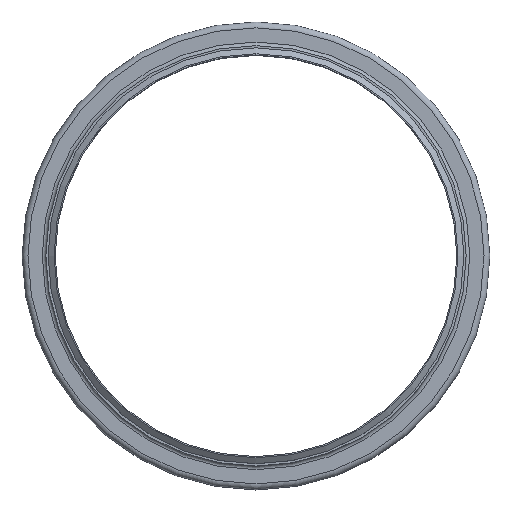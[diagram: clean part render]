
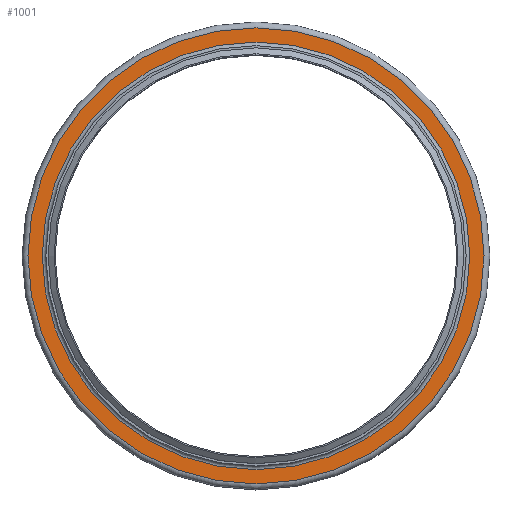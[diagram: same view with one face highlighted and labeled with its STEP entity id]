
A CAD part, top view. The second image highlights one B-rep face of the part: STEP entity #1001.
In plain terms, the highlighted planar face has unit normal (0, 0, 1).
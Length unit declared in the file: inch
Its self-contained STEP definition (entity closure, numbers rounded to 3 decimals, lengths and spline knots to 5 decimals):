
#123=FACE_BOUND('',#304,.T.);
#192=FACE_OUTER_BOUND('',#303,.T.);
#303=EDGE_LOOP('',(#832));
#304=EDGE_LOOP('',(#833));
#424=CIRCLE('',#1220,11.31);
#425=CIRCLE('',#1222,12.065);
#511=VERTEX_POINT('',#1895);
#512=VERTEX_POINT('',#1899);
#622=EDGE_CURVE('',#511,#511,#424,.T.);
#623=EDGE_CURVE('',#512,#512,#425,.T.);
#832=ORIENTED_EDGE('',*,*,#623,.F.);
#833=ORIENTED_EDGE('',*,*,#622,.T.);
#932=PLANE('',#1221);
#1001=ADVANCED_FACE('',(#192,#123),#932,.T.);
#1220=AXIS2_PLACEMENT_3D('',#1897,#1573,#1574);
#1221=AXIS2_PLACEMENT_3D('',#1898,#1575,#1576);
#1222=AXIS2_PLACEMENT_3D('',#1900,#1577,#1578);
#1573=DIRECTION('center_axis',(0.,0.,-1.));
#1574=DIRECTION('ref_axis',(1.,0.,0.));
#1575=DIRECTION('center_axis',(0.,0.,1.));
#1576=DIRECTION('ref_axis',(1.,0.,0.));
#1577=DIRECTION('center_axis',(0.,0.,-1.));
#1578=DIRECTION('ref_axis',(1.,0.,0.));
#1895=CARTESIAN_POINT('',(11.31,0.,-0.19));
#1897=CARTESIAN_POINT('Origin',(0.,0.,-0.19));
#1898=CARTESIAN_POINT('Origin',(0.,12.065,-0.19));
#1899=CARTESIAN_POINT('',(12.065,0.,-0.19));
#1900=CARTESIAN_POINT('Origin',(0.,0.,-0.19));
